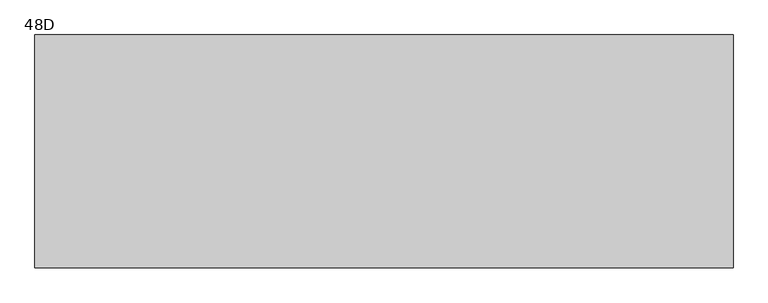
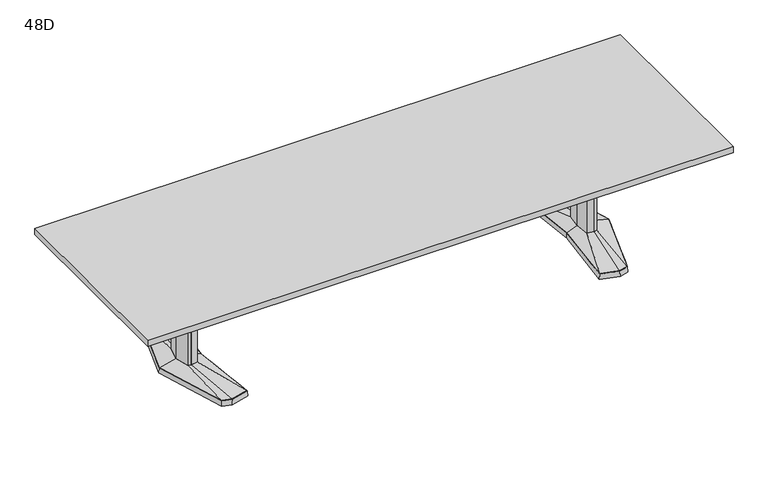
"""IFC4 building model written with IfcOpenShell, lengths in millimetres: furniture geometry, Coalesse_AM_Table_Conference_ETable2_Rectangular_12ft_AluminiumBase : 48D."""

import ifcopenshell
import ifcopenshell.guid

model = None  # the IFC model being written
_history = None  # IfcOwnerHistory: only IFC2X3 demands one
_inside = {}  # id of a spatial element -> (the spatial element, [elements in it])
_under = {}  # id of a project, library or spatial element -> (it, [spatial elements below it])
_declared = {}  # id of a project -> (the project, [libraries it declares])
_typed = {}  # id of a type object -> (the type object, [elements of that type])
_made_of = {}  # id of a material, layer set ... -> (it, [elements and type objects made of it])


def new_model(schema):
    """Start an empty IFC model of exactly this schema.

    Asked for "IFC4X3", IfcOpenShell would pick the latest addendum, in which some entities
    have other attributes; the version numbers below select the first issue.
    IFC2X3 requires an IfcOwnerHistory on every rooted entity: one is made here for all.
    """
    global model, _history
    if schema == "IFC4X3":
        model = ifcopenshell.file(schema_version=(4, 3, 0, 0))
    else:
        model = ifcopenshell.file(schema=schema)
    _inside.clear()
    _under.clear()
    _declared.clear()
    _typed.clear()
    _made_of.clear()
    _history = None
    if model.schema == "IFC2X3":
        org = make("IfcOrganization", Name="unknown")
        user = make(
            "IfcPersonAndOrganization",
            ThePerson=make("IfcPerson", FamilyName="unknown"),
            TheOrganization=org,
        )
        app = make(
            "IfcApplication",
            ApplicationDeveloper=org,
            Version="unknown",
            ApplicationFullName="unknown",
            ApplicationIdentifier="unknown",
        )
        _history = make(
            "IfcOwnerHistory",
            OwningUser=user,
            OwningApplication=app,
            ChangeAction="ADDED",
            CreationDate=0,
        )
    return model


def make(cls, **values):
    """One entity of the class cls with the attributes given. An attribute that is None is left unset."""
    return model.create_entity(
        cls, **{name: value for name, value in values.items() if value is not None}
    )


def rooted(cls, **values):
    """An entity with a GlobalId (a new one), such as an element, a storey or a relation."""
    return make(cls, GlobalId=ifcopenshell.guid.new(), OwnerHistory=_history, **values)


def si_unit(unit_type, name, prefix=None):
    """IfcSIUnit, for example si_unit("LENGTHUNIT", "METRE", prefix="MILLI")."""
    return make("IfcSIUnit", UnitType=unit_type, Prefix=prefix, Name=name)


def assignment(units):
    """IfcUnitAssignment: the units of a project."""
    return None if units is None else make("IfcUnitAssignment", Units=units)


def point(xyz):
    """IfcCartesianPoint."""
    return None if xyz is None else make("IfcCartesianPoint", Coordinates=xyz)


def direction(xyz):
    """IfcDirection."""
    return None if xyz is None else make("IfcDirection", DirectionRatios=xyz)


def frame(location, z_axis=None, x_axis=None):
    """IfcAxis2Placement3D, a coordinate frame: its origin and axes. An axis left out is left unset."""
    return make(
        "IfcAxis2Placement3D",
        Location=point(location),
        Axis=direction(z_axis),
        RefDirection=direction(x_axis),
    )


def origin():
    """The frame at (0, 0, 0) with its axes left unset."""
    return frame((0.0, 0.0, 0.0))


def place(relative_to, where):
    """IfcLocalPlacement: puts the frame where relative to a parent placement (None: the world)."""
    return make(
        "IfcLocalPlacement", PlacementRelTo=relative_to, RelativePlacement=where
    )


def context(
    kind, dimensions, precision=None, world=None, true_north=None, identifier=None
):
    """IfcGeometricRepresentationContext, for example the 3D "Model" context."""
    return make(
        "IfcGeometricRepresentationContext",
        ContextIdentifier=identifier,
        ContextType=kind,
        CoordinateSpaceDimension=dimensions,
        Precision=precision,
        WorldCoordinateSystem=world,
        TrueNorth=true_north,
    )


def project(units=None, contexts=None):
    """IfcProject with its units and contexts."""
    return rooted(
        "IfcProject",
        Name="project",
        RepresentationContexts=contexts,
        UnitsInContext=assignment(units),
    )


def spatial(cls, under=None, at=None, **own):
    """A site, building, storey or space (cls), placed at a placement, below another one or the project."""
    s = rooted(cls, ObjectPlacement=at, **own)
    if under is not None:
        _under.setdefault(under.id(), (under, []))[1].append(s)
    return s


def polyline(points):
    """IfcPolyline through the points."""
    return make("IfcPolyline", Points=[point(p) for p in points])


def outline(outer, holes=None, kind="AREA"):
    """IfcArbitraryClosedProfileDef: a profile drawn as a closed curve; with holes, ...WithVoids."""
    if holes is None:
        return make("IfcArbitraryClosedProfileDef", ProfileType=kind, OuterCurve=outer)
    return make(
        "IfcArbitraryProfileDefWithVoids",
        ProfileType=kind,
        OuterCurve=outer,
        InnerCurves=holes,
    )


def extrude(swept, where, along, depth):
    """IfcExtrudedAreaSolid: the profile swept, set in the frame where, extruded along a direction by depth."""
    return make(
        "IfcExtrudedAreaSolid",
        SweptArea=swept,
        Position=where,
        ExtrudedDirection=direction(along),
        Depth=depth,
    )


def faces_of(points, faces, orient=None, outer=None):
    """IfcFace entities. A face is a list of loops; a loop is a list of indices into points, from 0.

    orient and outer hold one flag for each loop. By default every Orientation is true, the
    first loop of a face is its IfcFaceOuterBound and the others are IfcFaceBound.
    """
    made = []
    for i, loops in enumerate(faces):
        bounds = []
        for j, loop in enumerate(loops):
            is_outer = j == 0 if outer is None else outer[i][j]
            bounds.append(
                make(
                    "IfcFaceOuterBound" if is_outer else "IfcFaceBound",
                    Bound=make("IfcPolyLoop", Polygon=[points[k] for k in loop]),
                    Orientation=True if orient is None else orient[i][j],
                )
            )
        made.append(make("IfcFace", Bounds=bounds))
    return made


def faceted_brep(points, faces, orient=None, outer=None, voids=None):
    """IfcFacetedBrep: a solid bounded by flat faces; with voids (closed shells), ...WithVoids."""
    shared = [point(p) for p in points]
    hull = make("IfcClosedShell", CfsFaces=faces_of(shared, faces, orient, outer))
    if voids is None:
        return make("IfcFacetedBrep", Outer=hull)
    return make(
        "IfcFacetedBrepWithVoids",
        Outer=hull,
        Voids=[
            make(cls, CfsFaces=faces_of(shared, fs, o, b)) for cls, fs, o, b in voids
        ],
    )


def shape(context_of_items, identifier, shape_type, items):
    """IfcShapeRepresentation: the items that make up one representation, for example the "Body"."""
    return make(
        "IfcShapeRepresentation",
        ContextOfItems=context_of_items,
        RepresentationIdentifier=identifier,
        RepresentationType=shape_type,
        Items=items,
    )


def source(mapping_origin, context_of_items, identifier, shape_type, items):
    """IfcRepresentationMap: a shape defined once, which mapped items show again and again."""
    return make(
        "IfcRepresentationMap",
        MappingOrigin=mapping_origin,
        MappedRepresentation=shape(context_of_items, identifier, shape_type, items),
    )


def transform(
    local_origin,
    x_axis=None,
    y_axis=None,
    z_axis=None,
    scale=None,
    scale2=None,
    scale3=None,
    uniform=True,
):
    """IfcCartesianTransformationOperator3D, or its non-uniform kind. x_axis, y_axis, z_axis: its Axis1, 2, 3."""
    if uniform:
        return make(
            "IfcCartesianTransformationOperator3D",
            Axis1=direction(x_axis),
            Axis2=direction(y_axis),
            LocalOrigin=point(local_origin),
            Scale=scale,
            Axis3=direction(z_axis),
        )
    return make(
        "IfcCartesianTransformationOperator3DnonUniform",
        Axis1=direction(x_axis),
        Axis2=direction(y_axis),
        LocalOrigin=point(local_origin),
        Scale=scale,
        Axis3=direction(z_axis),
        Scale2=scale2,
        Scale3=scale3,
    )


def mapped(mapping_source, mapping_target):
    """IfcMappedItem: shows the shape of a source again, moved by a transform."""
    return make(
        "IfcMappedItem", MappingSource=mapping_source, MappingTarget=mapping_target
    )


def made_of(thing, what):
    """Note that an element or type object is made of a material, layer set ...; save() writes the relation."""
    if what is not None:
        _made_of.setdefault(what.id(), (what, []))[1].append(thing)
    return thing


def element(
    cls,
    number,
    at=None,
    inside=None,
    cuts=None,
    type_object=None,
    material=None,
    context=None,
    identifier="Body",
    shape_type=None,
    held_by="IfcProductDefinitionShape",
    body=None,
    shapes=None,
    **own,
):
    """One element of the class cls, such as IfcWall. Its Tag is "e" and its number.

    at: its placement. inside: the storey or other place that contains it. cuts: it is an
    opening in that element (IfcRelVoidsElement). A single representation is given by context,
    identifier, shape_type and body (its items); several are given by shapes. held_by: the class
    of the entity that holds the representations. save() writes the other relations.
    """
    e = rooted(cls, Tag="e%d" % number, ObjectPlacement=at, **own)
    if body is not None:
        shapes = [shape(context, identifier, shape_type, body)]
    if shapes is not None:
        e.Representation = make(held_by, Representations=shapes)
    if inside is not None:
        _inside.setdefault(inside.id(), (inside, []))[1].append(e)
    if cuts is not None:
        rooted(
            "IfcRelVoidsElement", RelatingBuildingElement=cuts, RelatedOpeningElement=e
        )
    if type_object is not None:
        _typed.setdefault(type_object.id(), (type_object, []))[1].append(e)
    return made_of(e, material)


def aggregate(whole, parts):
    """IfcRelAggregates: a whole, such as a stair, and the parts it consists of."""
    return rooted("IfcRelAggregates", RelatingObject=whole, RelatedObjects=parts)


def save(model, path):
    """Write the relations noted so far, then the file.

    IfcRelAggregates (storeys below a building ...), IfcRelContainedInSpatialStructure (elements
    in a storey), IfcRelDefinesByType, IfcRelAssociatesMaterial and IfcRelDeclares: one each for
    every whole, place, type object, material and project.
    """
    for whole, parts in _under.values():
        aggregate(whole, parts)
    for where, things in _inside.values():
        rooted(
            "IfcRelContainedInSpatialStructure",
            RelatedElements=things,
            RelatingStructure=where,
        )
    for kind, things in _typed.values():
        rooted("IfcRelDefinesByType", RelatedObjects=things, RelatingType=kind)
    for what, things in _made_of.values():
        rooted("IfcRelAssociatesMaterial", RelatedObjects=things, RelatingMaterial=what)
    for by, libraries in _declared.values():
        rooted("IfcRelDeclares", RelatingContext=by, RelatedDefinitions=libraries)
    model.write(path)


def plane_surface(at):
    """IfcPlane: the flat surface through the origin of the frame at, square to its z axis."""
    return make("IfcPlane", Position=at)


def spline_surface(u_degree, v_degree, points, u_multiplicities, v_multiplicities, u_knots, v_knots, weights=None):
    """IfcBSplineSurfaceWithKnots; with weights, IfcRationalBSplineSurfaceWithKnots. points: one row for each step in u."""
    own = dict(
        UDegree=u_degree,
        VDegree=v_degree,
        ControlPointsList=[[point(p) for p in row] for row in points],
        SurfaceForm="UNSPECIFIED",
        UClosed=False,
        VClosed=False,
        SelfIntersect=False,
        UMultiplicities=u_multiplicities,
        VMultiplicities=v_multiplicities,
        UKnots=u_knots,
        VKnots=v_knots,
        KnotSpec="UNSPECIFIED",
    )
    if weights is None:
        return make("IfcBSplineSurfaceWithKnots", **own)
    return make("IfcRationalBSplineSurfaceWithKnots", WeightsData=weights, **own)


def advanced_brep(points, edges, surfaces, faces):
    """IfcAdvancedBrep: a solid bounded by faces that lie on surfaces and meet in shared edges.

    An edge is (start, end): straight between two places in points (the first is 0);
    or (start, end, curve); or (start, end, curve, False) where it runs against its curve.
    A face is (place in surfaces, loops), or (place, loops, False) where it looks against
    its surface's normal. A loop lists edges by number (the first is 1), with a minus sign
    where the edge is run from its end to its start. The first loop is the outer one.
    """
    corners = [point(p) for p in points]
    vertices = [make("IfcVertexPoint", VertexGeometry=c) for c in corners]
    made = []
    for start, end, *more in edges:
        made.append(
            make(
                "IfcEdgeCurve",
                EdgeStart=vertices[start],
                EdgeEnd=vertices[end],
                EdgeGeometry=more[0] if more else make("IfcPolyline", Points=[corners[start], corners[end]]),
                SameSense=more[1] if len(more) > 1 else True,
            )
        )
    hull = []
    for where, loops, *sense in faces:
        bounds = []
        for j, loop in enumerate(loops):
            ring = [make("IfcOrientedEdge", EdgeElement=made[abs(k) - 1], Orientation=k > 0) for k in loop]
            bounds.append(
                make(
                    "IfcFaceOuterBound" if j == 0 else "IfcFaceBound",
                    Bound=make("IfcEdgeLoop", EdgeList=ring),
                    Orientation=True,
                )
            )
        hull.append(make("IfcAdvancedFace", Bounds=bounds, FaceSurface=surfaces[where], SameSense=sense[0] if sense else True))
    return make("IfcAdvancedBrep", Outer=make("IfcClosedShell", CfsFaces=hull))


def furniture_48d_0efdce5b(model_context):
    return source(origin(), model_context, "Body", "SolidModel", [
        faceted_brep([(1210.6306835, 455.5848221, 38.1), (1101.0531277, 426.2263816, 38.1), (1142.2163717, 0.0, 38.1), (1101.0531277, -426.2263816, 38.1), (1210.6306835, -455.5848221, 38.1), (1266.7570396, -440.5478297, 38.1), (1404.0684269, 0.0, 38.1), (1266.7570396, 440.5478297, 38.1), (1210.6306754, 457.2283104, 3.175), (1268.0124472, 441.8549756, 3.175), (1405.73125, 0.0, 3.175), (1268.0124472, -441.8549756, 3.175), (1210.6306754, -457.2283104, 3.175), (1099.34375, -427.4118891, 3.175), (1140.6214856, 0.0, 3.175), (1099.34375, 427.4118891, 3.175), (1214.220115, 428.3273875, 3.175), (1109.1718228, 402.1057253, 3.175), (1117.290518, 377.985069, 3.175), (1217.8095466, 401.0699529, 3.175), (1268.3691725, 387.524361, 3.175), (1267.5631061, 414.0360954, 3.175), (1214.220115, -428.3273875, 3.175), (1267.5631061, -414.0360954, 3.175), (1268.3691725, -387.524361, 3.175), (1217.8095466, -401.0699529, 3.175), (1117.290518, -377.985069, 3.175), (1109.1718228, -402.1057253, 3.175), (1340.8153621, 0.0, 3.175), (1308.5459611, 120.4193755, 3.175), (1259.8987222, 133.471665, 3.175), (1180.0180526, 119.4176561, 3.175), (1168.8868466, 0.0, 3.175), (1180.0180526, -119.4176561, 3.175), (1259.8987222, -133.471665, 3.175), (1308.5459611, -120.4193755, 3.175), (1214.220115, 428.3273875, 0.0), (1267.5631061, 414.0360954, 0.0), (1268.3691725, 387.524361, 0.0), (1217.8095466, 401.0699529, 0.0), (1117.290518, 377.985069, 0.0), (1109.1718228, 402.1057253, 0.0), (1214.220115, -428.3273875, 0.0), (1109.1718228, -402.1057253, 0.0), (1117.290518, -377.985069, 0.0), (1217.8095466, -401.0699529, 0.0), (1268.3691725, -387.524361, 0.0), (1267.5631061, -414.0360954, 0.0), (1340.8153621, 0.0, 0.0), (1308.5459611, -120.4193755, 0.0), (1259.8987222, -133.471665, 0.0), (1180.0180526, -119.4176561, 0.0), (1168.8868466, 0.0, 0.0), (1180.0180526, 119.4176561, 0.0), (1259.8987222, 133.471665, 0.0), (1308.5459611, 120.4193755, 0.0)], [[[0, 1, 2, 3, 4, 5, 6, 7]], [[8, 9, 10, 11, 12, 13, 14, 15], [16, 17, 18, 19, 20, 21], [22, 23, 24, 25, 26, 27], [28, 29, 30, 31, 32, 33, 34, 35]], [[7, 9, 8, 0]], [[6, 10, 9, 7]], [[5, 11, 10, 6]], [[4, 12, 11, 5]], [[3, 13, 12, 4]], [[2, 14, 13, 3]], [[1, 15, 14, 2]], [[0, 8, 15, 1]], [[36, 37, 38, 39, 40, 41]], [[42, 43, 44, 45, 46, 47]], [[48, 49, 50, 51, 52, 53, 54, 55]], [[36, 16, 21, 37]], [[37, 21, 20, 38]], [[38, 20, 19, 39]], [[39, 19, 18, 40]], [[40, 18, 17, 41]], [[41, 17, 16, 36]], [[42, 22, 27, 43]], [[43, 27, 26, 44]], [[44, 26, 25, 45]], [[45, 25, 24, 46]], [[46, 24, 23, 47]], [[47, 23, 22, 42]], [[48, 28, 35, 49]], [[49, 35, 34, 50]], [[50, 34, 33, 51]], [[51, 33, 32, 52]], [[52, 32, 31, 53]], [[53, 31, 30, 54]], [[54, 30, 29, 55]], [[55, 29, 28, 48]]]),
        faceted_brep([(1301.3710836, 0.0, 698.5), (1277.4358546, 89.3188359, 698.5), (1260.5824984, 93.8406728, 698.5), (1258.1826511, 94.4845635, 698.5), (1215.255146, 86.9320037, 698.5), (1207.1520056, 0.0, 698.5), (1215.255146, -86.9320037, 698.5), (1258.1826511, -94.4845635, 698.5), (1260.5824984, -93.8406728, 698.5), (1277.4358546, -89.3188359, 698.5), (1301.3710836, 0.0, 63.5), (1277.4358546, -89.3188359, 63.5), (1260.5824984, -93.8406728, 63.5), (1258.1826511, -94.4845635, 63.5), (1215.255146, -86.9320037, 63.5), (1207.1520056, 0.0, 63.5), (1215.255146, 86.9320037, 63.5), (1258.1826511, 94.4845635, 63.5), (1260.5824984, 93.8406728, 63.5), (1277.4358546, 89.3188359, 63.5)], [[[0, 1, 2, 3, 4, 5, 6, 7, 8, 9]], [[10, 11, 12, 13, 14, 15, 16, 17, 18, 19]], [[9, 11, 10, 0]], [[8, 12, 11, 9]], [[7, 13, 12, 8]], [[6, 14, 13, 7]], [[5, 15, 14, 6]], [[4, 16, 15, 5]], [[3, 17, 16, 4]], [[2, 18, 17, 3]], [[1, 19, 18, 2]], [[0, 10, 19, 1]]]),
        advanced_brep(
        [(1258.1826511, 94.4845635, 63.5), (1215.255146, 86.9320037, 63.5), (1207.1520056, 0.0, 63.5), (1215.255146, -86.9320037, 63.5), (1258.1826511, -94.4845635, 63.5), (1277.4358546, -89.3188359, 63.5), (1301.3710836, 0.0, 63.5), (1277.4358546, 89.3188359, 63.5), (1210.6306835, 455.5848221, 38.1), (1266.7570396, 440.5478297, 38.1), (1404.0684269, 0.0, 38.1), (1266.7570396, -440.5478297, 38.1), (1210.6306835, -455.5848221, 38.1), (1101.0531277, -426.2263816, 38.1), (1142.2163717, 0.0, 38.1), (1101.0531277, 426.2263816, 38.1)],
        [
            (0, 1),
            (1, 2),
            (2, 3),
            (3, 4),
            (4, 5),
            (5, 6),
            (6, 7),
            (7, 0),
            (8, 9),
            (9, 10),
            (10, 11),
            (11, 12),
            (12, 13),
            (13, 14),
            (14, 15),
            (15, 8),
            (8, 0),
            (7, 9),
            (6, 10),
            (5, 11),
            (4, 12),
            (3, 13),
            (2, 14),
            (1, 15),
        ],
        [
            plane_surface(frame((1251.2837991, 0.0, 63.5), z_axis=(0.0, 0.0, 1.0), x_axis=(-0.25884244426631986, -0.9659195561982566, 0.0))),
            plane_surface(frame((1212.8958125, 0.0, 38.1), z_axis=(0.0, 0.0, -1.0), x_axis=(-0.25884244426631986, -0.9659195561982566, 0.0))),
            spline_surface(1, 1, [[(1210.6306835, 455.5848221, 38.1), (1266.7570396, 440.5478297, 38.1)], [(1258.1826511, 94.4845635, 63.5), (1277.4358546, 89.3188359, 63.5)]], [2, 2], [2, 2], [0.0, 1.0], [0.0, 1.0]),
            spline_surface(1, 1, [[(1266.7570396, 440.5478297, 38.1), (1404.0684269, 0.0, 38.1)], [(1277.4358546, 89.3188359, 63.5), (1301.3710836, 0.0, 63.5)]], [2, 2], [2, 2], [0.0, 1.0], [0.0, 1.0]),
            spline_surface(1, 1, [[(1404.0684269, 0.0, 38.1), (1266.7570396, -440.5478297, 38.1)], [(1301.3710836, 0.0, 63.5), (1277.4358546, -89.3188359, 63.5)]], [2, 2], [2, 2], [0.0, 1.0], [0.0, 1.0]),
            spline_surface(1, 1, [[(1266.7570396, -440.5478297, 38.1), (1210.6306835, -455.5848221, 38.1)], [(1277.4358546, -89.3188359, 63.5), (1258.1826511, -94.4845635, 63.5)]], [2, 2], [2, 2], [0.0, 1.0], [0.0, 1.0]),
            spline_surface(1, 1, [[(1210.6306835, -455.5848221, 38.1), (1101.0531277, -426.2263816, 38.1)], [(1258.1826511, -94.4845635, 63.5), (1215.255146, -86.9320037, 63.5)]], [2, 2], [2, 2], [0.0, 1.0], [0.0, 1.0]),
            spline_surface(1, 1, [[(1101.0531277, -426.2263816, 38.1), (1142.2163717, 0.0, 38.1)], [(1215.255146, -86.9320037, 63.5), (1207.1520056, 0.0, 63.5)]], [2, 2], [2, 2], [0.0, 1.0], [0.0, 1.0]),
            spline_surface(1, 1, [[(1142.2163717, 0.0, 38.1), (1101.0531277, 426.2263816, 38.1)], [(1207.1520056, 0.0, 63.5), (1215.255146, 86.9320037, 63.5)]], [2, 2], [2, 2], [0.0, 1.0], [0.0, 1.0]),
            spline_surface(1, 1, [[(1101.0531277, 426.2263816, 38.1), (1210.6306835, 455.5848221, 38.1)], [(1215.255146, 86.9320037, 63.5), (1258.1826511, 94.4845635, 63.5)]], [2, 2], [2, 2], [0.0, 1.0], [0.0, 1.0]),
        ],
        [
            (0, [[1, 2, 3, 4, 5, 6, 7, 8]]),
            (1, [[9, 10, 11, 12, 13, 14, 15, 16]]),
            (2, [[17, -8, 18, -9]]),
            (3, [[-18, -7, 19, -10]]),
            (4, [[-19, -6, 20, -11]]),
            (5, [[-20, -5, 21, -12]]),
            (6, [[-21, -4, 22, -13]]),
            (7, [[-22, -3, 23, -14]]),
            (8, [[-23, -2, 24, -15]]),
            (9, [[-24, -1, -17, -16]]),
        ],
    ),
        faceted_brep([(-1210.6306835, 455.5848221, 38.1), (-1266.7570396, 440.5478297, 38.1), (-1404.0684269, 0.0, 38.1), (-1266.7570396, -440.5478297, 38.1), (-1210.6306835, -455.5848221, 38.1), (-1101.0531277, -426.2263816, 38.1), (-1142.2163717, 0.0, 38.1), (-1101.0531277, 426.2263816, 38.1), (-1210.6306754, 457.2283104, 3.175), (-1099.34375, 427.4118891, 3.175), (-1140.6214856, 0.0, 3.175), (-1099.34375, -427.4118891, 3.175), (-1210.6306754, -457.2283104, 3.175), (-1268.0124472, -441.8549756, 3.175), (-1405.73125, 0.0, 3.175), (-1268.0124472, 441.8549756, 3.175), (-1214.220115, 428.3273875, 3.175), (-1267.5631061, 414.0360954, 3.175), (-1268.3691725, 387.524361, 3.175), (-1217.8095466, 401.0699529, 3.175), (-1117.290518, 377.985069, 3.175), (-1109.1718228, 402.1057253, 3.175), (-1214.220115, -428.3273875, 3.175), (-1109.1718228, -402.1057253, 3.175), (-1117.290518, -377.985069, 3.175), (-1217.8095466, -401.0699529, 3.175), (-1268.3691725, -387.524361, 3.175), (-1267.5631061, -414.0360954, 3.175), (-1340.8153621, 0.0, 3.175), (-1308.5459611, -120.4193755, 3.175), (-1259.8987222, -133.471665, 3.175), (-1180.0180526, -119.4176561, 3.175), (-1168.8868466, 0.0, 3.175), (-1180.0180526, 119.4176561, 3.175), (-1259.8987222, 133.471665, 3.175), (-1308.5459611, 120.4193755, 3.175), (-1214.220115, 428.3273875, 0.0), (-1109.1718228, 402.1057253, 0.0), (-1117.290518, 377.985069, 0.0), (-1217.8095466, 401.0699529, 0.0), (-1268.3691725, 387.524361, 0.0), (-1267.5631061, 414.0360954, 0.0), (-1214.220115, -428.3273875, 0.0), (-1267.5631061, -414.0360954, 0.0), (-1268.3691725, -387.524361, 0.0), (-1217.8095466, -401.0699529, 0.0), (-1117.290518, -377.985069, 0.0), (-1109.1718228, -402.1057253, 0.0), (-1340.8153621, 0.0, 0.0), (-1308.5459611, 120.4193755, 0.0), (-1259.8987222, 133.471665, 0.0), (-1180.0180526, 119.4176561, 0.0), (-1168.8868466, 0.0, 0.0), (-1180.0180526, -119.4176561, 0.0), (-1259.8987222, -133.471665, 0.0), (-1308.5459611, -120.4193755, 0.0)], [[[0, 1, 2, 3, 4, 5, 6, 7]], [[8, 9, 10, 11, 12, 13, 14, 15], [16, 17, 18, 19, 20, 21], [22, 23, 24, 25, 26, 27], [28, 29, 30, 31, 32, 33, 34, 35]], [[1, 0, 8, 15]], [[2, 1, 15, 14]], [[3, 2, 14, 13]], [[4, 3, 13, 12]], [[5, 4, 12, 11]], [[6, 5, 11, 10]], [[7, 6, 10, 9]], [[0, 7, 9, 8]], [[36, 37, 38, 39, 40, 41]], [[42, 43, 44, 45, 46, 47]], [[48, 49, 50, 51, 52, 53, 54, 55]], [[36, 41, 17, 16]], [[41, 40, 18, 17]], [[40, 39, 19, 18]], [[39, 38, 20, 19]], [[38, 37, 21, 20]], [[37, 36, 16, 21]], [[42, 47, 23, 22]], [[47, 46, 24, 23]], [[46, 45, 25, 24]], [[45, 44, 26, 25]], [[44, 43, 27, 26]], [[43, 42, 22, 27]], [[48, 55, 29, 28]], [[55, 54, 30, 29]], [[54, 53, 31, 30]], [[53, 52, 32, 31]], [[52, 51, 33, 32]], [[51, 50, 34, 33]], [[50, 49, 35, 34]], [[49, 48, 28, 35]]]),
        faceted_brep([(-1301.3710836, 0.0, 698.5), (-1277.4358546, -89.3188359, 698.5), (-1260.5824984, -93.8406728, 698.5), (-1258.1826511, -94.4845635, 698.5), (-1215.255146, -86.9320037, 698.5), (-1207.1520056, 0.0, 698.5), (-1215.255146, 86.9320037, 698.5), (-1258.1826511, 94.4845635, 698.5), (-1260.5824984, 93.8406728, 698.5), (-1277.4358546, 89.3188359, 698.5), (-1301.3710836, 0.0, 63.5), (-1277.4358546, 89.3188359, 63.5), (-1260.5824984, 93.8406728, 63.5), (-1258.1826511, 94.4845635, 63.5), (-1215.255146, 86.9320037, 63.5), (-1207.1520056, 0.0, 63.5), (-1215.255146, -86.9320037, 63.5), (-1258.1826511, -94.4845635, 63.5), (-1260.5824984, -93.8406728, 63.5), (-1277.4358546, -89.3188359, 63.5)], [[[0, 1, 2, 3, 4, 5, 6, 7, 8, 9]], [[10, 11, 12, 13, 14, 15, 16, 17, 18, 19]], [[1, 0, 10, 19]], [[2, 1, 19, 18]], [[3, 2, 18, 17]], [[4, 3, 17, 16]], [[5, 4, 16, 15]], [[6, 5, 15, 14]], [[7, 6, 14, 13]], [[8, 7, 13, 12]], [[9, 8, 12, 11]], [[0, 9, 11, 10]]]),
        advanced_brep(
        [(-1258.1826511, 94.4845635, 63.5), (-1277.4358546, 89.3188359, 63.5), (-1301.3710836, 0.0, 63.5), (-1277.4358546, -89.3188359, 63.5), (-1258.1826511, -94.4845635, 63.5), (-1215.255146, -86.9320037, 63.5), (-1207.1520056, 0.0, 63.5), (-1215.255146, 86.9320037, 63.5), (-1210.6306835, 455.5848221, 38.1), (-1101.0531277, 426.2263816, 38.1), (-1142.2163717, 0.0, 38.1), (-1101.0531277, -426.2263816, 38.1), (-1210.6306835, -455.5848221, 38.1), (-1266.7570396, -440.5478297, 38.1), (-1404.0684269, 0.0, 38.1), (-1266.7570396, 440.5478297, 38.1)],
        [
            (0, 1),
            (1, 2),
            (2, 3),
            (3, 4),
            (4, 5),
            (5, 6),
            (6, 7),
            (7, 0),
            (8, 9),
            (9, 10),
            (10, 11),
            (11, 12),
            (12, 13),
            (13, 14),
            (14, 15),
            (15, 8),
            (15, 1),
            (0, 8),
            (14, 2),
            (13, 3),
            (12, 4),
            (11, 5),
            (10, 6),
            (9, 7),
        ],
        [
            plane_surface(frame((-1251.2837991, 0.0, 63.5), z_axis=(0.0, 0.0, 1.0), x_axis=(0.25884244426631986, -0.9659195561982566, 0.0))),
            plane_surface(frame((-1212.8958125, 0.0, 38.1), z_axis=(0.0, 0.0, -1.0), x_axis=(0.25884244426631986, -0.9659195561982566, 0.0))),
            spline_surface(1, 1, [[(-1210.6306835, 455.5848221, 38.1), (-1258.1826511, 94.4845635, 63.5)], [(-1266.7570396, 440.5478297, 38.1), (-1277.4358546, 89.3188359, 63.5)]], [2, 2], [2, 2], [0.0, 1.0], [0.0, 1.0]),
            spline_surface(1, 1, [[(-1266.7570396, 440.5478297, 38.1), (-1277.4358546, 89.3188359, 63.5)], [(-1404.0684269, 0.0, 38.1), (-1301.3710836, 0.0, 63.5)]], [2, 2], [2, 2], [0.0, 1.0], [0.0, 1.0]),
            spline_surface(1, 1, [[(-1404.0684269, 0.0, 38.1), (-1301.3710836, 0.0, 63.5)], [(-1266.7570396, -440.5478297, 38.1), (-1277.4358546, -89.3188359, 63.5)]], [2, 2], [2, 2], [0.0, 1.0], [0.0, 1.0]),
            spline_surface(1, 1, [[(-1266.7570396, -440.5478297, 38.1), (-1277.4358546, -89.3188359, 63.5)], [(-1210.6306835, -455.5848221, 38.1), (-1258.1826511, -94.4845635, 63.5)]], [2, 2], [2, 2], [0.0, 1.0], [0.0, 1.0]),
            spline_surface(1, 1, [[(-1210.6306835, -455.5848221, 38.1), (-1258.1826511, -94.4845635, 63.5)], [(-1101.0531277, -426.2263816, 38.1), (-1215.255146, -86.9320037, 63.5)]], [2, 2], [2, 2], [0.0, 1.0], [0.0, 1.0]),
            spline_surface(1, 1, [[(-1101.0531277, -426.2263816, 38.1), (-1215.255146, -86.9320037, 63.5)], [(-1142.2163717, 0.0, 38.1), (-1207.1520056, 0.0, 63.5)]], [2, 2], [2, 2], [0.0, 1.0], [0.0, 1.0]),
            spline_surface(1, 1, [[(-1142.2163717, 0.0, 38.1), (-1207.1520056, 0.0, 63.5)], [(-1101.0531277, 426.2263816, 38.1), (-1215.255146, 86.9320037, 63.5)]], [2, 2], [2, 2], [0.0, 1.0], [0.0, 1.0]),
            spline_surface(1, 1, [[(-1101.0531277, 426.2263816, 38.1), (-1215.255146, 86.9320037, 63.5)], [(-1210.6306835, 455.5848221, 38.1), (-1258.1826511, 94.4845635, 63.5)]], [2, 2], [2, 2], [0.0, 1.0], [0.0, 1.0]),
        ],
        [
            (0, [[1, 2, 3, 4, 5, 6, 7, 8]]),
            (1, [[9, 10, 11, 12, 13, 14, 15, 16]]),
            (2, [[-16, 17, -1, 18]]),
            (3, [[-15, 19, -2, -17]]),
            (4, [[-14, 20, -3, -19]]),
            (5, [[-13, 21, -4, -20]]),
            (6, [[-12, 22, -5, -21]]),
            (7, [[-11, 23, -6, -22]]),
            (8, [[-10, 24, -7, -23]]),
            (9, [[-9, -18, -8, -24]]),
        ],
    ),
        extrude(outline(polyline([(96.8375, 698.5), (103.1875, 698.5), (103.1875, 476.25), (-103.1875, 476.25), (-103.1875, 698.5), (-96.8375, 698.5), (-96.8375, 482.6), (96.8375, 482.6), (96.8375, 698.5)])), frame((-1207.29375, 0.0, 0.0), z_axis=(1.0, 0.0, 0.0), x_axis=(0.0, 1.0, 0.0)), (0.0, 0.0, 1.0), 2414.5875),
        extrude(outline(polyline([(1828.8, 609.6), (1828.8, -609.6), (-1828.8, -609.6), (-1828.8, 609.6), (1828.8, 609.6)])), frame((0.0, 0.0, 698.5), z_axis=(0.0, 0.0, 1.0), x_axis=(1.0, 0.0, 0.0)), (0.0, 0.0, 1.0), 38.1),
    ])


if __name__ == "__main__":
    model = new_model("IFC4")
    model_context = context("Model", 3, world=origin())
    ifc_project = project(units=[si_unit("LENGTHUNIT", "METRE", prefix="MILLI")], contexts=[model_context])
    site = spatial("IfcSite", under=ifc_project)
    building = spatial("IfcBuilding", under=site)
    placement = place(None, origin())
    furniture_48d_shape = furniture_48d_0efdce5b(model_context)
    element("IfcFurniture", 1, ObjectType="Coalesse_AM_Table_Conference_ETable2_Rectangular_12ft_AluminiumBase : 48D", at=placement, inside=building, context=model_context, shape_type="MappedRepresentation", body=[
        mapped(furniture_48d_shape, transform((0.0, 0.0, 0.0), x_axis=(1.0, 0.0, 0.0), y_axis=(0.0, 1.0, 0.0), z_axis=(0.0, 0.0, 1.0))),
    ])
    save(model, "model.ifc")
